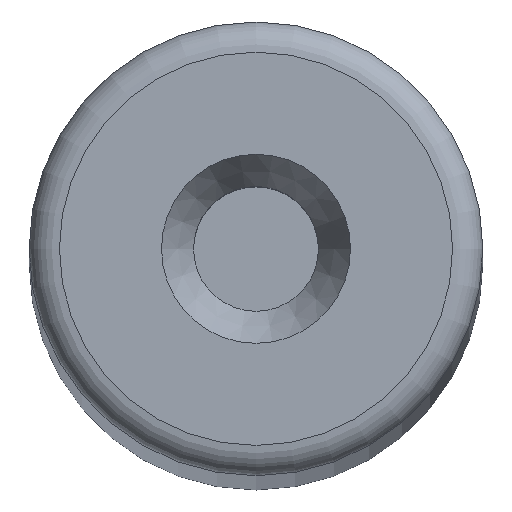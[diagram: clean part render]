
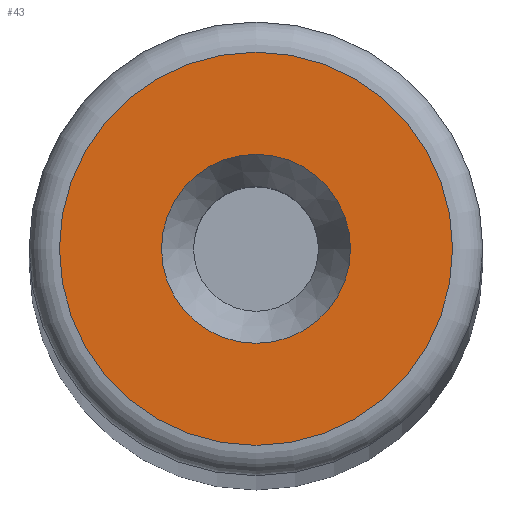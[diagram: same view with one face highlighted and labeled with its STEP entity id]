
A CAD part, top view. The second image highlights one B-rep face of the part: STEP entity #43.
In plain terms, the highlighted planar face has unit normal (0, 0, 1).
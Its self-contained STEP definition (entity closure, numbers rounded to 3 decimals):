
#43=ADVANCED_FACE('',(#58,#59),#54,.T.);
#54=PLANE('',#149);
#58=FACE_BOUND('',#76,.T.);
#59=FACE_BOUND('',#77,.T.);
#76=EDGE_LOOP('',(#96));
#77=EDGE_LOOP('',(#97));
#96=ORIENTED_EDGE('',*,*,#126,.T.);
#97=ORIENTED_EDGE('',*,*,#127,.F.);
#116=VERTEX_POINT('',#214);
#117=VERTEX_POINT('',#216);
#126=EDGE_CURVE('',#116,#116,#136,.T.);
#127=EDGE_CURVE('',#117,#117,#137,.T.);
#136=CIRCLE('',#147,5.2);
#137=CIRCLE('',#148,2.5);
#147=AXIS2_PLACEMENT_3D('',#213,#170,#171);
#148=AXIS2_PLACEMENT_3D('',#215,#172,#173);
#149=AXIS2_PLACEMENT_3D('',#217,#174,#175);
#170=DIRECTION('',(0.,0.,1.));
#171=DIRECTION('',(1.,0.,0.));
#172=DIRECTION('',(0.,0.,1.));
#173=DIRECTION('',(1.,0.,0.));
#174=DIRECTION('',(0.,0.,1.));
#175=DIRECTION('',(1.,0.,0.));
#213=CARTESIAN_POINT('',(0.,0.,218.));
#214=CARTESIAN_POINT('',(5.2,0.,218.));
#215=CARTESIAN_POINT('',(0.,0.,218.));
#216=CARTESIAN_POINT('',(2.5,0.,218.));
#217=CARTESIAN_POINT('',(0.,0.,218.));
